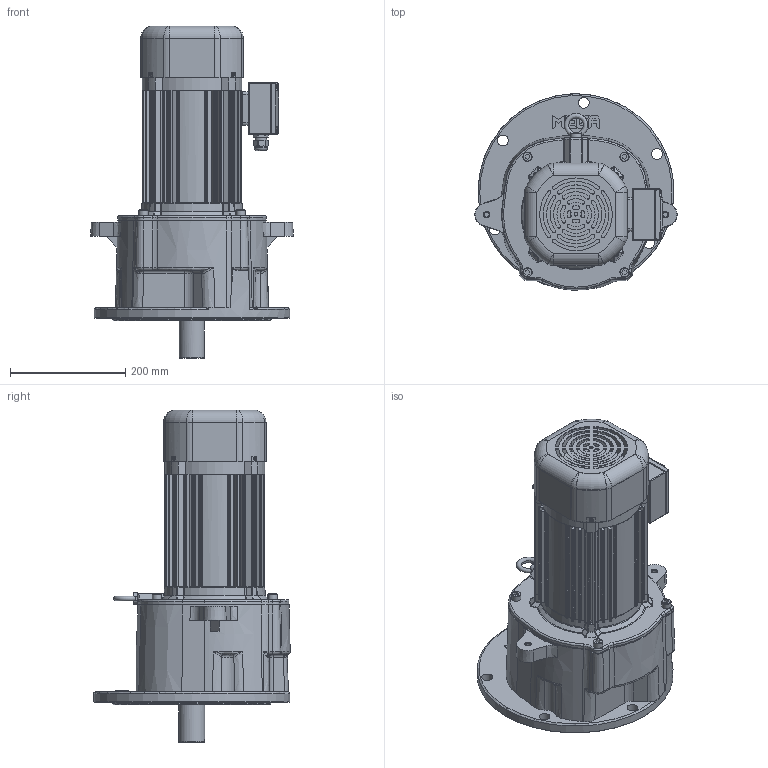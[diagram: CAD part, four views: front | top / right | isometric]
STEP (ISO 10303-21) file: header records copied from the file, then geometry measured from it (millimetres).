
FILE_DESCRIPTION(/* description */ (''),/* implementation_level */ '2;1');
FILE_NAME(/* name */ 'Z:\동력 3D 파일\PMK172_1.5kW_Brake_3D.stp',/* time_stamp */ '2021-11-30T18:09:50+09:00',/* author */ ('jaebok'),/* organization */ (''),/* preprocessor_version */ 'ST-DEVELOPER v18.1',/* originating_system */ 'Autodesk Inventor 2022',/* authorisation */ '');
FILE_SCHEMA (('AUTOMOTIVE_DESIGN { 1 0 10303 214 3 1 1 }'));
Products named in the file (1): 부품38
Bounding box: 351.17 x 341.06 x 576.3 mm (x, y, z)
Volume: 7760397.6 mm3; surface area: 1347591.1 mm2
Topology: 2 solids, 33 shells, 2726 faces, 6961 edges, 4287 vertices
Faces by surface type: plane 988, cylinder 726, bspline 579, cone 193, torus 184, sphere 56
Full cylindrical faces by diameter (mm): 3.25 x1, 3.6 x4, 4 x21, 5 x17, 6 x9, 7 x12, 8 x4, 8.376 x6, 8.5 x1, 8.8 x1, 10 x7, 11 x4, 12.5 x1, 15 x1, 16 x4, 19 x6, 20 x2, 21 x1, 22 x1, 23.6 x1, 25 x2, 36 x2, 40 x1, 45 x1, 50 x1, 52 x5, 55 x1, 62 x4, 72 x1, 75.7 x1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
Entity records: 103375 total; most frequent: CARTESIAN_POINT 37829, ORIENTED_EDGE 13698, DIRECTION 12256, EDGE_CURVE 6849, AXIS2_PLACEMENT_3D 4807, VERTEX_POINT 4287, EDGE_LOOP 2946, FACE_OUTER_BOUND 2726
